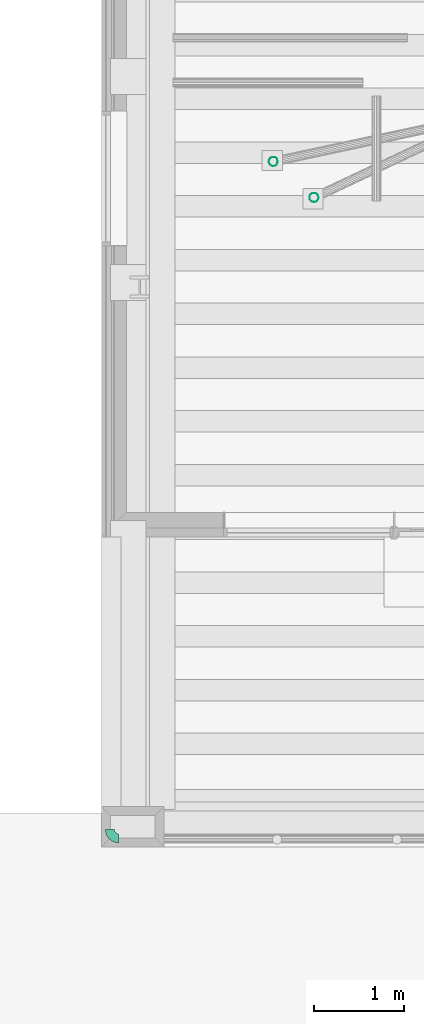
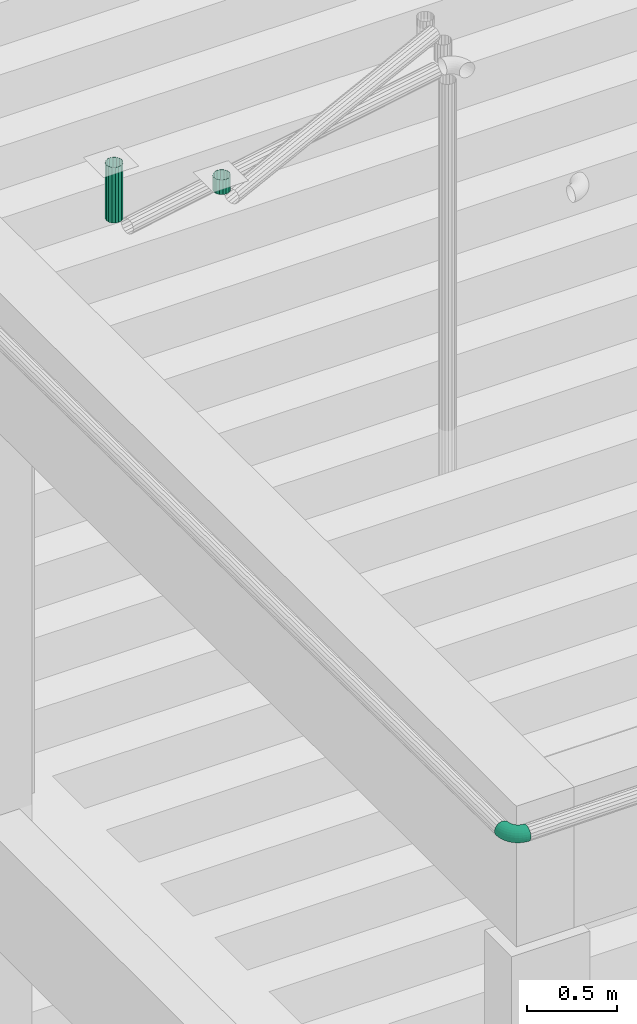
# One storey, part 70 of 108: 2 flow segments, 1 flow fitting.
"""IFC2X3 building model written with IfcOpenShell, lengths in metres."""

from ifc_helpers import new_model, entity, si_unit, converted_unit, derived_unit, money_unit, direction, frame, origin_with_axes, place, context, subcontext, project, spatial, open_shell, faceted_brep, surface_model, material, type_object, element, save


model = new_model("IFC2X3")

# Units and contexts
model_context = context("Model", 3, precision=1e-05, world=origin_with_axes(), true_north=direction((0.0, 1.0)))
body_context = subcontext(model_context, "Body", "Model", "MODEL_VIEW", scale=1.0)
ifc_project = project(units=[si_unit("LENGTHUNIT", "METRE"), si_unit("AREAUNIT", "SQUARE_METRE"), si_unit("VOLUMEUNIT", "CUBIC_METRE"), si_unit("ABSORBEDDOSEUNIT", "GRAY"), si_unit("AMOUNTOFSUBSTANCEUNIT", "MOLE"), si_unit("DOSEEQUIVALENTUNIT", "SIEVERT"), si_unit("ELECTRICCAPACITANCEUNIT", "FARAD"), si_unit("ELECTRICCHARGEUNIT", "COULOMB"), si_unit("ELECTRICCONDUCTANCEUNIT", "SIEMENS"), si_unit("ELECTRICCURRENTUNIT", "AMPERE"), si_unit("ELECTRICRESISTANCEUNIT", "OHM"), si_unit("ELECTRICVOLTAGEUNIT", "VOLT"), si_unit("ENERGYUNIT", "JOULE"), si_unit("FORCEUNIT", "NEWTON"), si_unit("FREQUENCYUNIT", "HERTZ"), si_unit("ILLUMINANCEUNIT", "LUX"), si_unit("INDUCTANCEUNIT", "HENRY"), si_unit("LUMINOUSFLUXUNIT", "LUMEN"), si_unit("LUMINOUSINTENSITYUNIT", "CANDELA"), si_unit("MAGNETICFLUXDENSITYUNIT", "TESLA"), si_unit("MAGNETICFLUXUNIT", "WEBER"), si_unit("MASSUNIT", "GRAM"), converted_unit("PLANEANGLEUNIT", "degree", entity("IfcReal", 0.0174532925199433), si_unit("PLANEANGLEUNIT", "RADIAN"), dimensions=[0, 0, 0, 0, 0, 0, 0]), si_unit("POWERUNIT", "WATT"), si_unit("PRESSUREUNIT", "PASCAL"), si_unit("RADIOACTIVITYUNIT", "BECQUEREL"), si_unit("SOLIDANGLEUNIT", "STERADIAN"), si_unit("THERMODYNAMICTEMPERATUREUNIT", "KELVIN"), si_unit("TIMEUNIT", "SECOND"), derived_unit("ACCELERATIONUNIT", [(si_unit("LENGTHUNIT", "METRE"), 1), (si_unit("TIMEUNIT", "SECOND"), -2)]), derived_unit("ANGULARVELOCITYUNIT", [(converted_unit("PLANEANGLEUNIT", "degree", entity("IfcReal", 0.0174532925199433), si_unit("PLANEANGLEUNIT", "RADIAN"), dimensions=[0, 0, 0, 0, 0, 0, 0]), 1), (si_unit("TIMEUNIT", "SECOND"), -1)]), derived_unit("CURVATUREUNIT", [(converted_unit("PLANEANGLEUNIT", "degree", entity("IfcReal", 0.0174532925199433), si_unit("PLANEANGLEUNIT", "RADIAN"), dimensions=[0, 0, 0, 0, 0, 0, 0]), 1), (si_unit("LENGTHUNIT", "METRE"), -1)]), derived_unit("DYNAMICVISCOSITYUNIT", [(si_unit("PRESSUREUNIT", "PASCAL"), 1), (si_unit("TIMEUNIT", "SECOND"), 1)]), derived_unit("HEATFLUXDENSITYUNIT", [(si_unit("POWERUNIT", "WATT"), 1), (si_unit("LENGTHUNIT", "METRE"), -2)]), derived_unit("HEATINGVALUEUNIT", [(si_unit("ENERGYUNIT", "JOULE"), 1), (si_unit("MASSUNIT", "GRAM"), -1)]), derived_unit("INTEGERCOUNTRATEUNIT", [(si_unit("TIMEUNIT", "SECOND"), -1)]), derived_unit("IONCONCENTRATIONUNIT", [(si_unit("MASSUNIT", "GRAM"), 1), (si_unit("VOLUMEUNIT", "CUBIC_METRE"), -1)]), derived_unit("ISOTHERMALMOISTURECAPACITYUNIT", [(si_unit("VOLUMEUNIT", "CUBIC_METRE"), 1), (si_unit("MASSUNIT", "GRAM"), -1)]), derived_unit("KINEMATICVISCOSITYUNIT", [(si_unit("AREAUNIT", "SQUARE_METRE"), 1), (si_unit("TIMEUNIT", "SECOND"), -1)]), derived_unit("LINEARFORCEUNIT", [(si_unit("FORCEUNIT", "NEWTON"), 1), (si_unit("LENGTHUNIT", "METRE"), -1)]), derived_unit("LINEARMOMENTUNIT", [(si_unit("FORCEUNIT", "NEWTON"), 1), (si_unit("LENGTHUNIT", "METRE"), -1)]), derived_unit("LINEARSTIFFNESSUNIT", [(si_unit("FORCEUNIT", "NEWTON"), 1), (si_unit("LENGTHUNIT", "METRE"), -1)]), derived_unit("LINEARVELOCITYUNIT", [(si_unit("LENGTHUNIT", "METRE"), 1), (si_unit("TIMEUNIT", "SECOND"), -1)]), derived_unit("LUMINOUSINTENSITYDISTRIBUTIONUNIT", [(si_unit("LUMINOUSINTENSITYUNIT", "CANDELA"), 1), (si_unit("LUMINOUSFLUXUNIT", "LUMEN"), -1)]), derived_unit("MASSDENSITYUNIT", [(si_unit("MASSUNIT", "GRAM"), 1), (si_unit("VOLUMEUNIT", "CUBIC_METRE"), -1)]), derived_unit("MASSFLOWRATEUNIT", [(si_unit("MASSUNIT", "GRAM"), 1), (si_unit("TIMEUNIT", "SECOND"), -1)]), derived_unit("MASSPERLENGTHUNIT", [(si_unit("MASSUNIT", "GRAM"), 1), (si_unit("LENGTHUNIT", "METRE"), -1)]), derived_unit("MODULUSOFELASTICITYUNIT", [(si_unit("FORCEUNIT", "NEWTON"), 1), (si_unit("AREAUNIT", "SQUARE_METRE"), -1)]), derived_unit("MODULUSOFLINEARSUBGRADEREACTIONUNIT", [(si_unit("FORCEUNIT", "NEWTON"), 1), (si_unit("LENGTHUNIT", "METRE"), -2)]), derived_unit("MODULUSOFROTATIONALSUBGRADEREACTIONUNIT", [(si_unit("FORCEUNIT", "NEWTON"), 1), (si_unit("LENGTHUNIT", "METRE"), 1)]), derived_unit("MODULUSOFSUBGRADEREACTIONUNIT", [(si_unit("FORCEUNIT", "NEWTON"), 1), (si_unit("VOLUMEUNIT", "CUBIC_METRE"), -1)]), derived_unit("MOISTUREDIFFUSIVITYUNIT", [(si_unit("VOLUMEUNIT", "CUBIC_METRE"), 1), (si_unit("TIMEUNIT", "SECOND"), -1)]), derived_unit("MOLECULARWEIGHTUNIT", [(si_unit("MASSUNIT", "GRAM"), 1), (si_unit("AMOUNTOFSUBSTANCEUNIT", "MOLE"), -1)]), derived_unit("PLANARFORCEUNIT", [(si_unit("FORCEUNIT", "NEWTON"), 1), (si_unit("LENGTHUNIT", "METRE"), -2)]), derived_unit("ROTATIONALFREQUENCYUNIT", [(si_unit("TIMEUNIT", "SECOND"), -1)]), derived_unit("ROTATIONALMASSUNIT", [(si_unit("MASSUNIT", "GRAM"), 1), (si_unit("LENGTHUNIT", "METRE"), 2)]), derived_unit("ROTATIONALSTIFFNESSUNIT", [(si_unit("FORCEUNIT", "NEWTON"), 1), (si_unit("LENGTHUNIT", "METRE"), 1), (converted_unit("PLANEANGLEUNIT", "degree", entity("IfcReal", 0.0174532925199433), si_unit("PLANEANGLEUNIT", "RADIAN"), dimensions=[0, 0, 0, 0, 0, 0, 0]), -1)]), derived_unit("SECTIONAREAINTEGRALUNIT", [(si_unit("LENGTHUNIT", "METRE"), 5)]), derived_unit("SECTIONMODULUSUNIT", [(si_unit("LENGTHUNIT", "METRE"), 3)]), derived_unit("SHEARMODULUSUNIT", [(si_unit("FORCEUNIT", "NEWTON"), 1), (si_unit("AREAUNIT", "SQUARE_METRE"), -1)]), derived_unit("SOUNDPOWERUNIT", [(si_unit("ENERGYUNIT", "JOULE"), 1), (si_unit("TIMEUNIT", "SECOND"), -1)]), derived_unit("SPECIFICHEATCAPACITYUNIT", [(si_unit("FORCEUNIT", "NEWTON"), 1), (si_unit("MASSUNIT", "GRAM"), -1), (si_unit("THERMODYNAMICTEMPERATUREUNIT", "KELVIN"), -1)]), derived_unit("TEMPERATUREGRADIENTUNIT", [(si_unit("THERMODYNAMICTEMPERATUREUNIT", "KELVIN"), 1), (si_unit("LENGTHUNIT", "METRE"), -1)]), derived_unit("THERMALADMITTANCEUNIT", [(si_unit("POWERUNIT", "WATT"), 1), (si_unit("AREAUNIT", "SQUARE_METRE"), -1), (si_unit("THERMODYNAMICTEMPERATUREUNIT", "KELVIN"), -1)]), derived_unit("THERMALCONDUCTANCEUNIT", [(si_unit("POWERUNIT", "WATT"), 1), (si_unit("LENGTHUNIT", "METRE"), -1), (si_unit("THERMODYNAMICTEMPERATUREUNIT", "KELVIN"), -1)]), derived_unit("THERMALEXPANSIONCOEFFICIENTUNIT", [(si_unit("THERMODYNAMICTEMPERATUREUNIT", "KELVIN"), -1)]), derived_unit("THERMALRESISTANCEUNIT", [(si_unit("AREAUNIT", "SQUARE_METRE"), 1), (si_unit("POWERUNIT", "WATT"), -1)]), derived_unit("THERMALTRANSMITTANCEUNIT", [(si_unit("POWERUNIT", "WATT"), 1), (si_unit("AREAUNIT", "SQUARE_METRE"), -1), (si_unit("THERMODYNAMICTEMPERATUREUNIT", "KELVIN"), -1)]), derived_unit("TORQUEUNIT", [(si_unit("FORCEUNIT", "NEWTON"), 1), (si_unit("LENGTHUNIT", "METRE"), 1)]), derived_unit("VAPORPERMEABILITYUNIT", [(si_unit("MASSUNIT", "GRAM"), 1), (si_unit("TIMEUNIT", "SECOND"), -1)]), derived_unit("VOLUMETRICFLOWRATEUNIT", [(si_unit("VOLUMEUNIT", "CUBIC_METRE"), 1), (si_unit("TIMEUNIT", "SECOND"), -1)]), derived_unit("WARPINGCONSTANTUNIT", [(si_unit("LENGTHUNIT", "METRE"), 6)]), derived_unit("WARPINGMOMENTUNIT", [(si_unit("FORCEUNIT", "NEWTON"), 1), (si_unit("LENGTHUNIT", "METRE"), 2)]), money_unit("GBP")], contexts=[model_context])

# Site, building, storey
site_placement = place(None, origin_with_axes())
site = spatial("IfcSite", under=ifc_project, at=site_placement, Name="Site", CompositionType="ELEMENT")
building_placement = place(site_placement, origin_with_axes())
building = spatial("IfcBuilding", under=site, at=building_placement, Name="Building01", CompositionType="ELEMENT")
storey_placement = place(building_placement, origin_with_axes())
storey = spatial("IfcBuildingStorey", under=building, at=storey_placement, Name="GF", CompositionType="ELEMENT", Elevation=0.0)

# Flow segments
ifc_material = material(Name="M_BSUK_ColdWater")
pipe_segment_type = type_object("IfcPipeSegmentType", Name="M-BmpStraightpipe-DefaultPipe", PredefinedType="RIGIDSEGMENT")
flow_segment_1_placement = place(storey_placement, frame((2.375111, 7.248528, 14.98), z_axis=(1.0, 0.0, 0.0), x_axis=(0.0, 0.0, -1.0)))
element("IfcFlowSegment", 1, at=flow_segment_1_placement, inside=storey, type_object=pipe_segment_type, material=ifc_material, Name="M-BmpStraightpipe-DefaultPipe", ObjectType="M-BmpStraightpipe-DefaultPipe", context=body_context, shape_type="Brep", body=[
    faceted_brep([(0.099913, 0.0, -0.05), (0.0, 0.0, -0.05), (0.0, 0.019134, -0.046194), (0.099913, 0.019134, -0.046194), (0.0, 0.035355, -0.035355), (0.099913, 0.035355, -0.035355), (0.0, 0.046194, -0.019134), (0.099913, 0.046194, -0.019134), (0.0, 0.05, 0.0), (0.099913, 0.05, 0.0), (0.0, 0.046194, 0.019134), (0.099913, 0.046194, 0.019134), (0.0, 0.035355, 0.035355), (0.099913, 0.035355, 0.035355), (0.0, 0.019134, 0.046194), (0.099913, 0.019134, 0.046194), (0.0, 0.0, 0.05), (0.099913, 0.0, 0.05), (0.0, -0.019134, 0.046194), (0.099913, -0.019134, 0.046194), (0.0, -0.035355, 0.035355), (0.099913, -0.035355, 0.035355), (0.0, -0.046194, 0.019134), (0.099913, -0.046194, 0.019134), (0.0, -0.05, 0.0), (0.099913, -0.05, 0.0), (0.0, -0.046194, -0.019134), (0.099913, -0.046194, -0.019134), (0.0, -0.035355, -0.035355), (0.099913, -0.035355, -0.035355), (0.0, -0.019134, -0.046194), (0.099913, -0.019134, -0.046194)], [[[0, 1, 2, 3]], [[3, 2, 4, 5]], [[5, 4, 6, 7]], [[7, 6, 8, 9]], [[9, 8, 10, 11]], [[11, 10, 12, 13]], [[13, 12, 14, 15]], [[15, 14, 16, 17]], [[17, 16, 18, 19]], [[19, 18, 20, 21]], [[21, 20, 22, 23]], [[23, 22, 24, 25]], [[25, 24, 26, 27]], [[27, 26, 28, 29]], [[29, 28, 30, 31]], [[31, 30, 1, 0]]]),
])
flow_segment_2_placement = place(storey_placement, frame((1.92, 7.65, 14.98), z_axis=(1.0, 0.0, 0.0), x_axis=(0.0, 0.0, -1.0)))
element("IfcFlowSegment", 2, at=flow_segment_2_placement, inside=storey, type_object=pipe_segment_type, material=ifc_material, Name="M-BmpStraightpipe-DefaultPipe", ObjectType="M-BmpStraightpipe-DefaultPipe", context=body_context, shape_type="Brep", body=[
    faceted_brep([(0.376115, 0.0, -0.05), (0.0, 0.0, -0.05), (0.0, 0.019134, -0.046194), (0.376115, 0.019134, -0.046194), (0.0, 0.035355, -0.035355), (0.376115, 0.035355, -0.035355), (0.0, 0.046194, -0.019134), (0.376115, 0.046194, -0.019134), (0.0, 0.05, 0.0), (0.376115, 0.05, 0.0), (0.0, 0.046194, 0.019134), (0.376115, 0.046194, 0.019134), (0.0, 0.035355, 0.035355), (0.376115, 0.035355, 0.035355), (0.0, 0.019134, 0.046194), (0.376115, 0.019134, 0.046194), (0.0, 0.0, 0.05), (0.376115, 0.0, 0.05), (0.0, -0.019134, 0.046194), (0.376115, -0.019134, 0.046194), (0.0, -0.035355, 0.035355), (0.376115, -0.035355, 0.035355), (0.0, -0.046194, 0.019134), (0.376115, -0.046194, 0.019134), (0.0, -0.05, 0.0), (0.376115, -0.05, 0.0), (0.0, -0.046194, -0.019134), (0.376115, -0.046194, -0.019134), (0.0, -0.035355, -0.035355), (0.376115, -0.035355, -0.035355), (0.0, -0.019134, -0.046194), (0.376115, -0.019134, -0.046194)], [[[0, 1, 2, 3]], [[3, 2, 4, 5]], [[5, 4, 6, 7]], [[7, 6, 8, 9]], [[9, 8, 10, 11]], [[11, 10, 12, 13]], [[13, 12, 14, 15]], [[15, 14, 16, 17]], [[17, 16, 18, 19]], [[19, 18, 20, 21]], [[21, 20, 22, 23]], [[23, 22, 24, 25]], [[25, 24, 26, 27]], [[27, 26, 28, 29]], [[29, 28, 30, 31]], [[31, 30, 1, 0]]]),
])

# Flow fitting
pipe_fitting_type = type_object("IfcPipeFittingType", Name="M-BmpElbow-DefaultElbow", PredefinedType="BEND")
flow_fitting_placement = place(storey_placement, frame((0.095, 0.19497, 15.640002), z_axis=(-1.0, 0.0, 0.0), x_axis=(0.0, -1.0, 0.0)))
element("IfcFlowFitting", 3, at=flow_fitting_placement, inside=storey, type_object=pipe_fitting_type, material=ifc_material, Name="M-BmpElbow-DefaultElbow", ObjectType="M-BmpElbow-DefaultElbow", context=body_context, shape_type="SurfaceModel", body=[
    surface_model("IfcShellBasedSurfaceModel", [(0.008009, -0.01349, -0.048768), (0.0, -0.01349, -0.048146), (0.0, 0.0, -0.05), (0.007723, 0.0, -0.0506), (0.015826, -0.01349, -0.05062), (0.015261, 0.0, -0.052386), (0.023264, -0.01349, -0.053657), (0.022432, 0.0, -0.055314), (0.030143, -0.01349, -0.057807), (0.029065, 0.0, -0.059315), (0.036298, -0.01349, -0.062969), (0.035, 0.0, -0.064293), (0.041582, -0.01349, -0.06902), (0.040095, 0.0, -0.070127), (0.045868, -0.01349, -0.075814), (0.044228, 0.0, -0.076679), (0.049054, -0.01349, -0.083189), (0.0473, 0.0, -0.08379), (0.051061, -0.01349, -0.090968), (0.049236, 0.0, -0.091291), (0.051844, -0.01349, -0.098963), (0.04999, 0.0, -0.099), (0.008847, -0.025979, -0.043408), (0.0, -0.025979, -0.042721), (0.017482, -0.025979, -0.045454), (0.025697, -0.025979, -0.048809), (0.033296, -0.025979, -0.053392), (0.040095, -0.025979, -0.059095), (0.045932, -0.025979, -0.065779), (0.050667, -0.025979, -0.073284), (0.054185, -0.025979, -0.081431), (0.056403, -0.025979, -0.090023), (0.057268, -0.025979, -0.098855), (0.010175, -0.036542, -0.034918), (0.0, -0.036542, -0.034128), (0.020105, -0.036542, -0.037271), (0.029553, -0.036542, -0.041129), (0.038291, -0.036542, -0.0464), (0.046111, -0.036542, -0.052958), (0.052823, -0.036542, -0.060645), (0.058268, -0.036542, -0.069276), (0.062315, -0.036542, -0.078645), (0.064865, -0.036542, -0.088526), (0.065859, -0.036542, -0.098683), (0.011893, -0.044394, -0.023927), (0.0, -0.044394, -0.023003), (0.0235, -0.044394, -0.026677), (0.034544, -0.044394, -0.031187), (0.044758, -0.044394, -0.037348), (0.053898, -0.044394, -0.045013), (0.061744, -0.044394, -0.053998), (0.068109, -0.044394, -0.064087), (0.072838, -0.044394, -0.075038), (0.07582, -0.044394, -0.086588), (0.076981, -0.044394, -0.09846), (0.013875, -0.048954, -0.011251), (0.0, -0.048954, -0.010173), (0.027416, -0.048954, -0.014459), (0.0403, -0.048954, -0.01972), (0.052216, -0.048954, -0.026908), (0.062879, -0.048954, -0.035851), (0.072033, -0.048954, -0.046333), (0.079458, -0.048954, -0.058103), (0.084976, -0.048954, -0.070879), (0.088454, -0.048954, -0.084353), (0.089809, -0.048954, -0.098204), (0.015973, -0.049883, 0.002171), (0.0, -0.049883, 0.003412), (0.031562, -0.049883, -0.001522), (0.046394, -0.049883, -0.007579), (0.060113, -0.049883, -0.015854), (0.072389, -0.049883, -0.026149), (0.082927, -0.049883, -0.038216), (0.091475, -0.049883, -0.051767), (0.097827, -0.049883, -0.066475), (0.101831, -0.049883, -0.081987), (0.103391, -0.049883, -0.097932), (0.018032, -0.047113, 0.015343), (0.0, -0.047113, 0.016744), (0.035632, -0.047113, 0.011174), (0.052376, -0.047113, 0.004336), (0.067863, -0.047113, -0.005006), (0.081721, -0.047113, -0.016628), (0.093618, -0.047113, -0.030251), (0.103268, -0.047113, -0.045548), (0.110439, -0.047113, -0.062153), (0.114959, -0.047113, -0.079665), (0.116721, -0.047113, -0.097665), (0.0199, -0.040848, 0.027288), (0.0, -0.040848, 0.028834), (0.039322, -0.040848, 0.022687), (0.0578, -0.040848, 0.015141), (0.074891, -0.040848, 0.004831), (0.090184, -0.040848, -0.007994), (0.103313, -0.040848, -0.023028), (0.113962, -0.040848, -0.039909), (0.121876, -0.040848, -0.058233), (0.126865, -0.040848, -0.077559), (0.128808, -0.040848, -0.097424), (0.021437, -0.031554, 0.03712), (0.0, -0.031554, 0.038786), (0.042359, -0.031554, 0.032163), (0.062264, -0.031554, 0.024035), (0.080675, -0.031554, 0.012929), (0.09715, -0.031554, -0.000887), (0.111293, -0.031554, -0.017083), (0.122765, -0.031554, -0.035268), (0.13129, -0.031554, -0.055007), (0.136664, -0.031554, -0.075826), (0.138758, -0.031554, -0.097225), (0.022529, -0.01992, 0.04411), (0.0, -0.01992, 0.045861), (0.044518, -0.01992, 0.038901), (0.065438, -0.01992, 0.030358), (0.084788, -0.01992, 0.018686), (0.102103, -0.01992, 0.004165), (0.116966, -0.01992, -0.012856), (0.129023, -0.01992, -0.031968), (0.137983, -0.01992, -0.052713), (0.143631, -0.01992, -0.074593), (0.145831, -0.01992, -0.097083), (0.023097, -0.006808, 0.04774), (0.0, -0.006808, 0.049534), (0.045639, -0.006808, 0.042399), (0.067087, -0.006808, 0.033641), (0.086924, -0.006808, 0.021675), (0.104674, -0.006808, 0.006789), (0.119912, -0.006808, -0.010661), (0.132273, -0.006808, -0.030254), (0.141458, -0.006808, -0.051522), (0.147248, -0.006808, -0.073953), (0.149504, -0.006808, -0.09701), (0.023097, 0.006808, 0.04774), (0.0, 0.006808, 0.049534), (0.045639, 0.006808, 0.042399), (0.067087, 0.006808, 0.033641), (0.086924, 0.006808, 0.021675), (0.104674, 0.006808, 0.006789), (0.119912, 0.006808, -0.010661), (0.132273, 0.006808, -0.030254), (0.141458, 0.006808, -0.051522), (0.147248, 0.006808, -0.073953), (0.149504, 0.006808, -0.09701), (0.022529, 0.01992, 0.04411), (0.0, 0.01992, 0.045861), (0.044518, 0.01992, 0.038901), (0.065438, 0.01992, 0.030358), (0.084788, 0.01992, 0.018686), (0.102103, 0.01992, 0.004165), (0.116966, 0.01992, -0.012856), (0.129023, 0.01992, -0.031968), (0.137983, 0.01992, -0.052713), (0.143631, 0.01992, -0.074593), (0.145831, 0.01992, -0.097083), (0.021437, 0.031554, 0.03712), (0.0, 0.031554, 0.038786), (0.042359, 0.031554, 0.032163), (0.062264, 0.031554, 0.024035), (0.080675, 0.031554, 0.012929), (0.09715, 0.031554, -0.000887), (0.111293, 0.031554, -0.017083), (0.122765, 0.031554, -0.035268), (0.13129, 0.031554, -0.055007), (0.136664, 0.031554, -0.075826), (0.138758, 0.031554, -0.097225), (0.0199, 0.040848, 0.027288), (0.0, 0.040848, 0.028834), (0.039322, 0.040848, 0.022687), (0.0578, 0.040848, 0.015141), (0.074891, 0.040848, 0.004831), (0.090184, 0.040848, -0.007994), (0.103313, 0.040848, -0.023028), (0.113962, 0.040848, -0.039909), (0.121876, 0.040848, -0.058233), (0.126865, 0.040848, -0.077559), (0.128808, 0.040848, -0.097424), (0.018032, 0.047113, 0.015343), (0.0, 0.047113, 0.016744), (0.035632, 0.047113, 0.011174), (0.052376, 0.047113, 0.004336), (0.067863, 0.047113, -0.005006), (0.081721, 0.047113, -0.016628), (0.093618, 0.047113, -0.030251), (0.103268, 0.047113, -0.045548), (0.110439, 0.047113, -0.062153), (0.114959, 0.047113, -0.079665), (0.116721, 0.047113, -0.097665), (0.015973, 0.049883, 0.002171), (0.0, 0.049883, 0.003412), (0.031562, 0.049883, -0.001522), (0.046394, 0.049883, -0.007579), (0.060113, 0.049883, -0.015854), (0.072389, 0.049883, -0.026149), (0.082927, 0.049883, -0.038216), (0.091475, 0.049883, -0.051767), (0.097827, 0.049883, -0.066475), (0.101831, 0.049883, -0.081987), (0.103391, 0.049883, -0.097932), (0.013875, 0.048954, -0.011251), (0.0, 0.048954, -0.010173), (0.027416, 0.048954, -0.014459), (0.0403, 0.048954, -0.01972), (0.052216, 0.048954, -0.026908), (0.062879, 0.048954, -0.035851), (0.072033, 0.048954, -0.046333), (0.079458, 0.048954, -0.058103), (0.084976, 0.048954, -0.070879), (0.088454, 0.048954, -0.084353), (0.089809, 0.048954, -0.098204), (0.011893, 0.044394, -0.023927), (0.0, 0.044394, -0.023003), (0.0235, 0.044394, -0.026677), (0.034544, 0.044394, -0.031187), (0.044758, 0.044394, -0.037348), (0.053898, 0.044394, -0.045013), (0.061744, 0.044394, -0.053998), (0.068109, 0.044394, -0.064087), (0.072838, 0.044394, -0.075038), (0.07582, 0.044394, -0.086588), (0.076981, 0.044394, -0.09846), (0.010175, 0.036542, -0.034918), (0.0, 0.036542, -0.034128), (0.020105, 0.036542, -0.037271), (0.029553, 0.036542, -0.041129), (0.038291, 0.036542, -0.0464), (0.046111, 0.036542, -0.052958), (0.052823, 0.036542, -0.060645), (0.058268, 0.036542, -0.069276), (0.062315, 0.036542, -0.078645), (0.064865, 0.036542, -0.088526), (0.065859, 0.036542, -0.098683), (0.008847, 0.025979, -0.043408), (0.0, 0.025979, -0.042721), (0.017482, 0.025979, -0.045454), (0.025697, 0.025979, -0.048809), (0.033296, 0.025979, -0.053392), (0.040095, 0.025979, -0.059095), (0.045932, 0.025979, -0.065779), (0.050667, 0.025979, -0.073284), (0.054185, 0.025979, -0.081431), (0.056403, 0.025979, -0.090023), (0.057268, 0.025979, -0.098855), (0.008009, 0.01349, -0.048768), (0.0, 0.01349, -0.048146), (0.015826, 0.01349, -0.05062), (0.023264, 0.01349, -0.053657), (0.030143, 0.01349, -0.057807), (0.036298, 0.01349, -0.062969), (0.041582, 0.01349, -0.06902), (0.045868, 0.01349, -0.075814), (0.049054, 0.01349, -0.083189), (0.051061, 0.01349, -0.090968), (0.051844, 0.01349, -0.098963)], [open_shell([[[0, 1, 2, 3]], [[4, 0, 3, 5]], [[6, 4, 5, 7]], [[8, 6, 7, 9]], [[10, 8, 9, 11]], [[12, 10, 11, 13]], [[14, 12, 13, 15]], [[16, 14, 15, 17]], [[18, 16, 17, 19]], [[20, 18, 19, 21]], [[22, 23, 1, 0]], [[24, 22, 0, 4]], [[25, 24, 4, 6]], [[26, 25, 6, 8]], [[27, 26, 8, 10]], [[28, 27, 10, 12]], [[29, 28, 12, 14]], [[30, 29, 14, 16]], [[31, 30, 16, 18]], [[32, 31, 18, 20]], [[33, 34, 23, 22]], [[35, 33, 22, 24]], [[36, 35, 24, 25]], [[37, 36, 25, 26]], [[38, 37, 26, 27]], [[39, 38, 27, 28]], [[40, 39, 28, 29]], [[41, 40, 29, 30]], [[42, 41, 30, 31]], [[43, 42, 31, 32]], [[44, 45, 34, 33]], [[46, 44, 33, 35]], [[47, 46, 35, 36]], [[48, 47, 36, 37]], [[49, 48, 37, 38]], [[50, 49, 38, 39]], [[51, 50, 39, 40]], [[52, 51, 40, 41]], [[53, 52, 41, 42]], [[54, 53, 42, 43]], [[55, 56, 45, 44]], [[57, 55, 44, 46]], [[58, 57, 46, 47]], [[59, 58, 47, 48]], [[60, 59, 48, 49]], [[61, 60, 49, 50]], [[62, 61, 50, 51]], [[63, 62, 51, 52]], [[64, 63, 52, 53]], [[65, 64, 53, 54]], [[66, 67, 56, 55]], [[68, 66, 55, 57]], [[69, 68, 57, 58]], [[70, 69, 58, 59]], [[71, 70, 59, 60]], [[72, 71, 60, 61]], [[73, 72, 61, 62]], [[74, 73, 62, 63]], [[75, 74, 63, 64]], [[76, 75, 64, 65]], [[77, 78, 67, 66]], [[79, 77, 66, 68]], [[80, 79, 68, 69]], [[81, 80, 69, 70]], [[82, 81, 70, 71]], [[83, 82, 71, 72]], [[84, 83, 72, 73]], [[85, 84, 73, 74]], [[86, 85, 74, 75]], [[87, 86, 75, 76]], [[88, 89, 78, 77]], [[90, 88, 77, 79]], [[91, 90, 79, 80]], [[92, 91, 80, 81]], [[93, 92, 81, 82]], [[94, 93, 82, 83]], [[95, 94, 83, 84]], [[96, 95, 84, 85]], [[97, 96, 85, 86]], [[98, 97, 86, 87]], [[99, 100, 89, 88]], [[101, 99, 88, 90]], [[102, 101, 90, 91]], [[103, 102, 91, 92]], [[104, 103, 92, 93]], [[105, 104, 93, 94]], [[106, 105, 94, 95]], [[107, 106, 95, 96]], [[108, 107, 96, 97]], [[109, 108, 97, 98]], [[110, 111, 100, 99]], [[112, 110, 99, 101]], [[113, 112, 101, 102]], [[114, 113, 102, 103]], [[115, 114, 103, 104]], [[116, 115, 104, 105]], [[117, 116, 105, 106]], [[118, 117, 106, 107]], [[119, 118, 107, 108]], [[120, 119, 108, 109]], [[121, 122, 111, 110]], [[123, 121, 110, 112]], [[124, 123, 112, 113]], [[125, 124, 113, 114]], [[126, 125, 114, 115]], [[127, 126, 115, 116]], [[128, 127, 116, 117]], [[129, 128, 117, 118]], [[130, 129, 118, 119]], [[131, 130, 119, 120]], [[132, 133, 122, 121]], [[134, 132, 121, 123]], [[135, 134, 123, 124]], [[136, 135, 124, 125]], [[137, 136, 125, 126]], [[138, 137, 126, 127]], [[139, 138, 127, 128]], [[140, 139, 128, 129]], [[141, 140, 129, 130]], [[142, 141, 130, 131]], [[143, 144, 133, 132]], [[145, 143, 132, 134]], [[146, 145, 134, 135]], [[147, 146, 135, 136]], [[148, 147, 136, 137]], [[149, 148, 137, 138]], [[150, 149, 138, 139]], [[151, 150, 139, 140]], [[152, 151, 140, 141]], [[153, 152, 141, 142]], [[154, 155, 144, 143]], [[156, 154, 143, 145]], [[157, 156, 145, 146]], [[158, 157, 146, 147]], [[159, 158, 147, 148]], [[160, 159, 148, 149]], [[161, 160, 149, 150]], [[162, 161, 150, 151]], [[163, 162, 151, 152]], [[164, 163, 152, 153]], [[165, 166, 155, 154]], [[167, 165, 154, 156]], [[168, 167, 156, 157]], [[169, 168, 157, 158]], [[170, 169, 158, 159]], [[171, 170, 159, 160]], [[172, 171, 160, 161]], [[173, 172, 161, 162]], [[174, 173, 162, 163]], [[175, 174, 163, 164]], [[176, 177, 166, 165]], [[178, 176, 165, 167]], [[179, 178, 167, 168]], [[180, 179, 168, 169]], [[181, 180, 169, 170]], [[182, 181, 170, 171]], [[183, 182, 171, 172]], [[184, 183, 172, 173]], [[185, 184, 173, 174]], [[186, 185, 174, 175]], [[187, 188, 177, 176]], [[189, 187, 176, 178]], [[190, 189, 178, 179]], [[191, 190, 179, 180]], [[192, 191, 180, 181]], [[193, 192, 181, 182]], [[194, 193, 182, 183]], [[195, 194, 183, 184]], [[196, 195, 184, 185]], [[197, 196, 185, 186]], [[198, 199, 188, 187]], [[200, 198, 187, 189]], [[201, 200, 189, 190]], [[202, 201, 190, 191]], [[203, 202, 191, 192]], [[204, 203, 192, 193]], [[205, 204, 193, 194]], [[206, 205, 194, 195]], [[207, 206, 195, 196]], [[208, 207, 196, 197]], [[209, 210, 199, 198]], [[211, 209, 198, 200]], [[212, 211, 200, 201]], [[213, 212, 201, 202]], [[214, 213, 202, 203]], [[215, 214, 203, 204]], [[216, 215, 204, 205]], [[217, 216, 205, 206]], [[218, 217, 206, 207]], [[219, 218, 207, 208]], [[220, 221, 210, 209]], [[222, 220, 209, 211]], [[223, 222, 211, 212]], [[224, 223, 212, 213]], [[225, 224, 213, 214]], [[226, 225, 214, 215]], [[227, 226, 215, 216]], [[228, 227, 216, 217]], [[229, 228, 217, 218]], [[230, 229, 218, 219]], [[231, 232, 221, 220]], [[233, 231, 220, 222]], [[234, 233, 222, 223]], [[235, 234, 223, 224]], [[236, 235, 224, 225]], [[237, 236, 225, 226]], [[238, 237, 226, 227]], [[239, 238, 227, 228]], [[240, 239, 228, 229]], [[241, 240, 229, 230]], [[242, 243, 232, 231]], [[244, 242, 231, 233]], [[245, 244, 233, 234]], [[246, 245, 234, 235]], [[247, 246, 235, 236]], [[248, 247, 236, 237]], [[249, 248, 237, 238]], [[250, 249, 238, 239]], [[251, 250, 239, 240]], [[252, 251, 240, 241]], [[3, 2, 243, 242]], [[5, 3, 242, 244]], [[7, 5, 244, 245]], [[9, 7, 245, 246]], [[11, 9, 246, 247]], [[13, 11, 247, 248]], [[15, 13, 248, 249]], [[17, 15, 249, 250]], [[19, 17, 250, 251]], [[21, 19, 251, 252]]])]),
])

save(model, "model.ifc")
